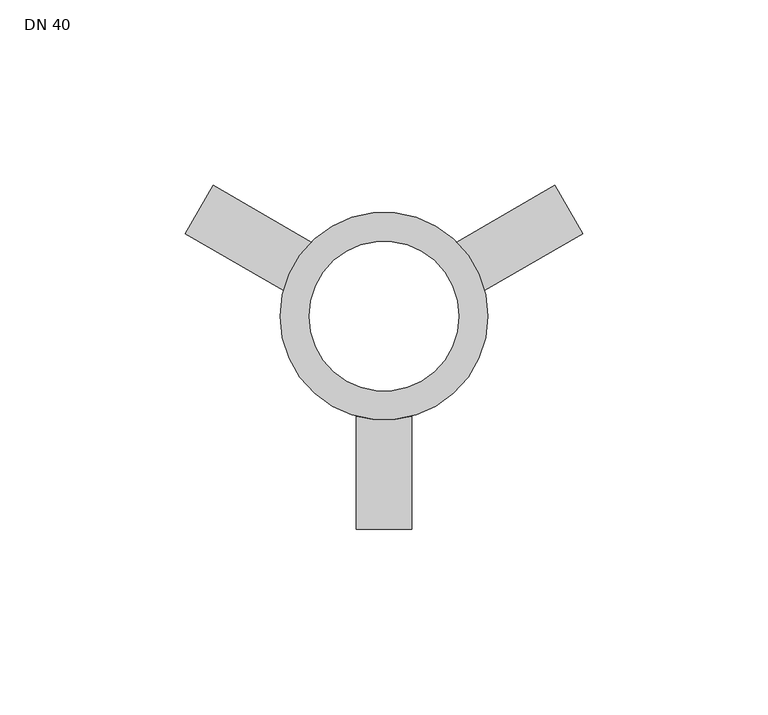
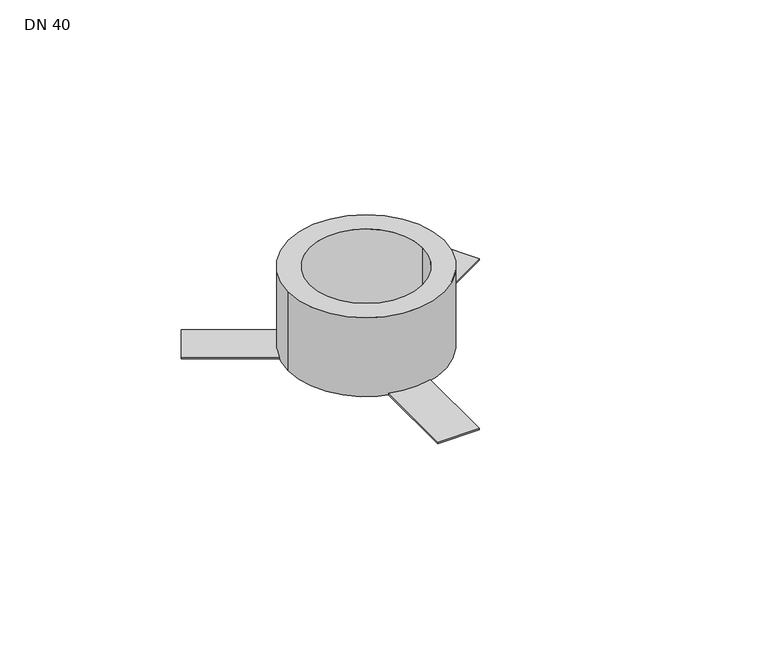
"""IFC4 building model written with IfcOpenShell, lengths in millimetres: proxy geometry, Wavin Brandmanschette für Decken : DN 40."""

import ifcopenshell
import ifcopenshell.guid

model = None  # the IFC model being written
_history = None  # IfcOwnerHistory: only IFC2X3 demands one
_inside = {}  # id of a spatial element -> (the spatial element, [elements in it])
_under = {}  # id of a project, library or spatial element -> (it, [spatial elements below it])
_declared = {}  # id of a project -> (the project, [libraries it declares])
_typed = {}  # id of a type object -> (the type object, [elements of that type])
_made_of = {}  # id of a material, layer set ... -> (it, [elements and type objects made of it])


def new_model(schema):
    """Start an empty IFC model of exactly this schema.

    Asked for "IFC4X3", IfcOpenShell would pick the latest addendum, in which some entities
    have other attributes; the version numbers below select the first issue.
    IFC2X3 requires an IfcOwnerHistory on every rooted entity: one is made here for all.
    """
    global model, _history
    if schema == "IFC4X3":
        model = ifcopenshell.file(schema_version=(4, 3, 0, 0))
    else:
        model = ifcopenshell.file(schema=schema)
    _inside.clear()
    _under.clear()
    _declared.clear()
    _typed.clear()
    _made_of.clear()
    _history = None
    if model.schema == "IFC2X3":
        org = make("IfcOrganization", Name="unknown")
        user = make(
            "IfcPersonAndOrganization",
            ThePerson=make("IfcPerson", FamilyName="unknown"),
            TheOrganization=org,
        )
        app = make(
            "IfcApplication",
            ApplicationDeveloper=org,
            Version="unknown",
            ApplicationFullName="unknown",
            ApplicationIdentifier="unknown",
        )
        _history = make(
            "IfcOwnerHistory",
            OwningUser=user,
            OwningApplication=app,
            ChangeAction="ADDED",
            CreationDate=0,
        )
    return model


def make(cls, **values):
    """One entity of the class cls with the attributes given. An attribute that is None is left unset."""
    return model.create_entity(
        cls, **{name: value for name, value in values.items() if value is not None}
    )


def rooted(cls, **values):
    """An entity with a GlobalId (a new one), such as an element, a storey or a relation."""
    return make(cls, GlobalId=ifcopenshell.guid.new(), OwnerHistory=_history, **values)


def si_unit(unit_type, name, prefix=None):
    """IfcSIUnit, for example si_unit("LENGTHUNIT", "METRE", prefix="MILLI")."""
    return make("IfcSIUnit", UnitType=unit_type, Prefix=prefix, Name=name)


def assignment(units):
    """IfcUnitAssignment: the units of a project."""
    return None if units is None else make("IfcUnitAssignment", Units=units)


def point(xyz):
    """IfcCartesianPoint."""
    return None if xyz is None else make("IfcCartesianPoint", Coordinates=xyz)


def direction(xyz):
    """IfcDirection."""
    return None if xyz is None else make("IfcDirection", DirectionRatios=xyz)


def frame(location, z_axis=None, x_axis=None):
    """IfcAxis2Placement3D, a coordinate frame: its origin and axes. An axis left out is left unset."""
    return make(
        "IfcAxis2Placement3D",
        Location=point(location),
        Axis=direction(z_axis),
        RefDirection=direction(x_axis),
    )


def frame_2d(location, x_axis=None):
    """IfcAxis2Placement2D, a coordinate frame in the plane: its origin and x axis."""
    return make(
        "IfcAxis2Placement2D", Location=point(location), RefDirection=direction(x_axis)
    )


def origin():
    """The frame at (0, 0, 0) with its axes left unset."""
    return frame((0.0, 0.0, 0.0))


def origin_with_axes():
    """The frame at (0, 0, 0) with the z axis (0, 0, 1) and the x axis (1, 0, 0) written out."""
    return frame((0.0, 0.0, 0.0), z_axis=(0.0, 0.0, 1.0), x_axis=(1.0, 0.0, 0.0))


def origin_2d():
    """The frame at (0, 0) in the plane with its x axis left unset."""
    return frame_2d((0.0, 0.0))


def place(relative_to, where):
    """IfcLocalPlacement: puts the frame where relative to a parent placement (None: the world)."""
    return make(
        "IfcLocalPlacement", PlacementRelTo=relative_to, RelativePlacement=where
    )


def context(
    kind, dimensions, precision=None, world=None, true_north=None, identifier=None
):
    """IfcGeometricRepresentationContext, for example the 3D "Model" context."""
    return make(
        "IfcGeometricRepresentationContext",
        ContextIdentifier=identifier,
        ContextType=kind,
        CoordinateSpaceDimension=dimensions,
        Precision=precision,
        WorldCoordinateSystem=world,
        TrueNorth=true_north,
    )


def project(units=None, contexts=None):
    """IfcProject with its units and contexts."""
    return rooted(
        "IfcProject",
        Name="project",
        RepresentationContexts=contexts,
        UnitsInContext=assignment(units),
    )


def spatial(cls, under=None, at=None, **own):
    """A site, building, storey or space (cls), placed at a placement, below another one or the project."""
    s = rooted(cls, ObjectPlacement=at, **own)
    if under is not None:
        _under.setdefault(under.id(), (under, []))[1].append(s)
    return s


def polyline(points):
    """IfcPolyline through the points."""
    return make("IfcPolyline", Points=[point(p) for p in points])


def circle_curve(where, radius):
    """IfcCircle in the frame where."""
    return make("IfcCircle", Position=where, Radius=radius)


def trimmed(basis, trim1, trim2, sense, master):
    """IfcTrimmedCurve: the piece of a basis curve between two trims."""
    return make(
        "IfcTrimmedCurve",
        BasisCurve=basis,
        Trim1=trim1,
        Trim2=trim2,
        SenseAgreement=sense,
        MasterRepresentation=master,
    )


def segment(curve, same_sense, transition):
    """IfcCompositeCurveSegment."""
    return make(
        "IfcCompositeCurveSegment",
        Transition=transition,
        SameSense=same_sense,
        ParentCurve=curve,
    )


def composite_curve(segments, self_intersect=None):
    """IfcCompositeCurve: segments joined end to end."""
    return make("IfcCompositeCurve", Segments=segments, SelfIntersect=self_intersect)


def outline(outer, holes=None, kind="AREA"):
    """IfcArbitraryClosedProfileDef: a profile drawn as a closed curve; with holes, ...WithVoids."""
    if holes is None:
        return make("IfcArbitraryClosedProfileDef", ProfileType=kind, OuterCurve=outer)
    return make(
        "IfcArbitraryProfileDefWithVoids",
        ProfileType=kind,
        OuterCurve=outer,
        InnerCurves=holes,
    )


def extrude(swept, where, along, depth):
    """IfcExtrudedAreaSolid: the profile swept, set in the frame where, extruded along a direction by depth."""
    return make(
        "IfcExtrudedAreaSolid",
        SweptArea=swept,
        Position=where,
        ExtrudedDirection=direction(along),
        Depth=depth,
    )


def shape(context_of_items, identifier, shape_type, items):
    """IfcShapeRepresentation: the items that make up one representation, for example the "Body"."""
    return make(
        "IfcShapeRepresentation",
        ContextOfItems=context_of_items,
        RepresentationIdentifier=identifier,
        RepresentationType=shape_type,
        Items=items,
    )


def source(mapping_origin, context_of_items, identifier, shape_type, items):
    """IfcRepresentationMap: a shape defined once, which mapped items show again and again."""
    return make(
        "IfcRepresentationMap",
        MappingOrigin=mapping_origin,
        MappedRepresentation=shape(context_of_items, identifier, shape_type, items),
    )


def transform(
    local_origin,
    x_axis=None,
    y_axis=None,
    z_axis=None,
    scale=None,
    scale2=None,
    scale3=None,
    uniform=True,
):
    """IfcCartesianTransformationOperator3D, or its non-uniform kind. x_axis, y_axis, z_axis: its Axis1, 2, 3."""
    if uniform:
        return make(
            "IfcCartesianTransformationOperator3D",
            Axis1=direction(x_axis),
            Axis2=direction(y_axis),
            LocalOrigin=point(local_origin),
            Scale=scale,
            Axis3=direction(z_axis),
        )
    return make(
        "IfcCartesianTransformationOperator3DnonUniform",
        Axis1=direction(x_axis),
        Axis2=direction(y_axis),
        LocalOrigin=point(local_origin),
        Scale=scale,
        Axis3=direction(z_axis),
        Scale2=scale2,
        Scale3=scale3,
    )


def mapped(mapping_source, mapping_target):
    """IfcMappedItem: shows the shape of a source again, moved by a transform."""
    return make(
        "IfcMappedItem", MappingSource=mapping_source, MappingTarget=mapping_target
    )


def made_of(thing, what):
    """Note that an element or type object is made of a material, layer set ...; save() writes the relation."""
    if what is not None:
        _made_of.setdefault(what.id(), (what, []))[1].append(thing)
    return thing


def element(
    cls,
    number,
    at=None,
    inside=None,
    cuts=None,
    type_object=None,
    material=None,
    context=None,
    identifier="Body",
    shape_type=None,
    held_by="IfcProductDefinitionShape",
    body=None,
    shapes=None,
    **own,
):
    """One element of the class cls, such as IfcWall. Its Tag is "e" and its number.

    at: its placement. inside: the storey or other place that contains it. cuts: it is an
    opening in that element (IfcRelVoidsElement). A single representation is given by context,
    identifier, shape_type and body (its items); several are given by shapes. held_by: the class
    of the entity that holds the representations. save() writes the other relations.
    """
    e = rooted(cls, Tag="e%d" % number, ObjectPlacement=at, **own)
    if body is not None:
        shapes = [shape(context, identifier, shape_type, body)]
    if shapes is not None:
        e.Representation = make(held_by, Representations=shapes)
    if inside is not None:
        _inside.setdefault(inside.id(), (inside, []))[1].append(e)
    if cuts is not None:
        rooted(
            "IfcRelVoidsElement", RelatingBuildingElement=cuts, RelatedOpeningElement=e
        )
    if type_object is not None:
        _typed.setdefault(type_object.id(), (type_object, []))[1].append(e)
    return made_of(e, material)


def aggregate(whole, parts):
    """IfcRelAggregates: a whole, such as a stair, and the parts it consists of."""
    return rooted("IfcRelAggregates", RelatingObject=whole, RelatedObjects=parts)


def save(model, path):
    """Write the relations noted so far, then the file.

    IfcRelAggregates (storeys below a building ...), IfcRelContainedInSpatialStructure (elements
    in a storey), IfcRelDefinesByType, IfcRelAssociatesMaterial and IfcRelDeclares: one each for
    every whole, place, type object, material and project.
    """
    for whole, parts in _under.values():
        aggregate(whole, parts)
    for where, things in _inside.values():
        rooted(
            "IfcRelContainedInSpatialStructure",
            RelatedElements=things,
            RelatingStructure=where,
        )
    for kind, things in _typed.values():
        rooted("IfcRelDefinesByType", RelatedObjects=things, RelatingType=kind)
    for what, things in _made_of.values():
        rooted("IfcRelAssociatesMaterial", RelatedObjects=things, RelatingMaterial=what)
    for by, libraries in _declared.values():
        rooted("IfcRelDeclares", RelatingContext=by, RelatedDefinitions=libraries)
    model.write(path)


def dn_40_852e5add(model_context):
    return source(origin(), model_context, "Body", "SweptSolid", [
        extrude(outline(composite_curve([segment(polyline([(46.0464607, 35.2451905), (53.5464607, 22.2548095), (27.1126304, 6.9932304)]), True, "CONTINUOUS"), segment(trimmed(circle_curve(origin_2d(), 28.0), [point((27.1126304, 6.9932304))], [point((19.6126304, 19.9836115))], True, "CARTESIAN"), True, "CONTINUOUS"), segment(polyline([(19.6126304, 19.9836115), (46.0464607, 35.2451905)]), True, "CONTINUOUS")], self_intersect=False)), origin_with_axes(), (0.0, 0.0, 1.0), 0.6),
        extrude(outline(composite_curve([segment(polyline([(-53.5464607, 22.2548095), (-46.0464607, 35.2451905), (-19.6126304, 19.9836115)]), True, "CONTINUOUS"), segment(trimmed(circle_curve(origin_2d(), 28.0), [point((-19.6126304, 19.9836115))], [point((-27.1126304, 6.9932304))], True, "CARTESIAN"), True, "CONTINUOUS"), segment(polyline([(-27.1126304, 6.9932304), (-53.5464607, 22.2548095)]), True, "CONTINUOUS")], self_intersect=False)), origin_with_axes(), (0.0, 0.0, 1.0), 0.6),
        extrude(outline(composite_curve([segment(polyline([(7.5, -57.5), (-7.5, -57.5), (-7.5, -26.9768419)]), True, "CONTINUOUS"), segment(trimmed(circle_curve(origin_2d(), 28.0), [point((-7.5, -26.9768419))], [point((7.5, -26.9768419))], True, "CARTESIAN"), True, "CONTINUOUS"), segment(polyline([(7.5, -26.9768419), (7.5, -57.5)]), True, "CONTINUOUS")], self_intersect=False)), origin_with_axes(), (0.0, 0.0, 1.0), 0.6),
        extrude(outline(composite_curve([segment(trimmed(circle_curve(origin_2d(), 28.0), [point((-28.0, 0.0))], [point((28.0, 0.0))], False, "CARTESIAN"), True, "CONTINUOUS"), segment(trimmed(circle_curve(origin_2d(), 28.0), [point((28.0, 0.0))], [point((-28.0, 0.0))], False, "CARTESIAN"), True, "CONTINUOUS")], self_intersect=False), holes=[composite_curve([segment(trimmed(circle_curve(origin_2d(), 20.2), [point((-20.2, 0.0))], [point((20.2, 0.0))], True, "CARTESIAN"), True, "CONTINUOUS"), segment(trimmed(circle_curve(origin_2d(), 20.2), [point((20.2, 0.0))], [point((-20.2, 0.0))], True, "CARTESIAN"), True, "CONTINUOUS")], self_intersect=False)]), origin_with_axes(), (0.0, 0.0, 1.0), 30.0),
    ])


if __name__ == "__main__":
    model = new_model("IFC4")
    model_context = context("Model", 3, world=origin())
    ifc_project = project(units=[si_unit("LENGTHUNIT", "METRE", prefix="MILLI")], contexts=[model_context])
    site = spatial("IfcSite", under=ifc_project)
    building = spatial("IfcBuilding", under=site)
    placement = place(None, origin())
    dn_40_shape = dn_40_852e5add(model_context)
    element("IfcBuildingElementProxy", 1, Name="Wavin Brandmanschette für Decken : DN 40", ObjectType="Wavin Brandmanschette für Decken : DN 40", at=placement, inside=building, context=model_context, shape_type="MappedRepresentation", body=[
        mapped(dn_40_shape, transform((0.0, 0.0, 0.0), x_axis=(1.0, 0.0, 0.0), y_axis=(0.0, 1.0, 0.0), z_axis=(0.0, 0.0, 1.0))),
    ])
    save(model, "model.ifc")
